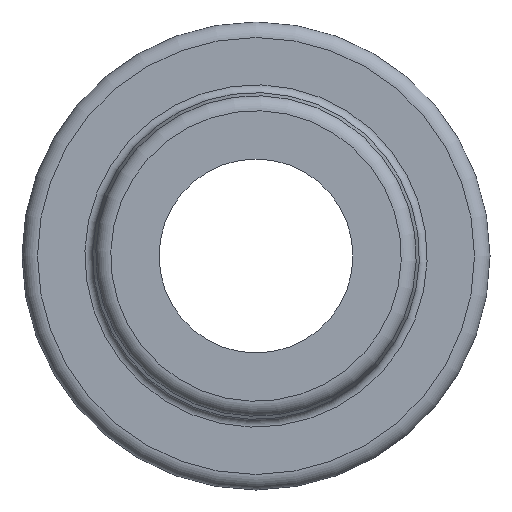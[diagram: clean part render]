
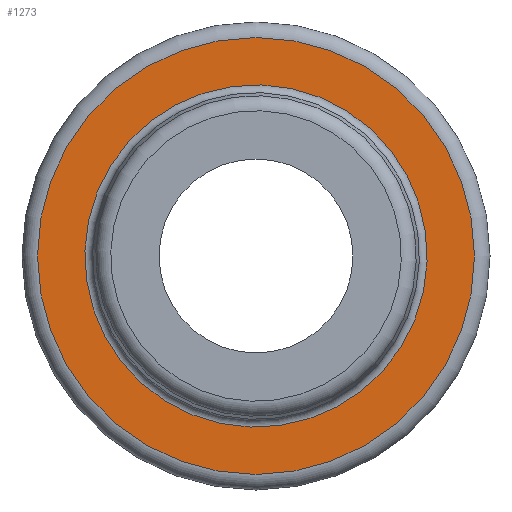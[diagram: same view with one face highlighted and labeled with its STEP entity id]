
A CAD part, left-side view. The second image highlights one B-rep face of the part: STEP entity #1273.
In plain terms, the highlighted planar face has unit normal (-1, 0, 0).
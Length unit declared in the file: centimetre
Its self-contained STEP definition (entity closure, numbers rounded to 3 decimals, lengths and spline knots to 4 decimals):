
#369=PLANE('',#1380);
#414=VERTEX_POINT('',#2668);
#416=VERTEX_POINT('',#2673);
#510=CIRCLE('',#1378,1.6815);
#512=CIRCLE('',#1381,2.1463);
#591=EDGE_CURVE('',#414,#414,#510,.T.);
#593=EDGE_CURVE('',#416,#416,#512,.T.);
#816=ORIENTED_EDGE('',*,*,#593,.F.);
#817=ORIENTED_EDGE('',*,*,#591,.F.);
#1085=EDGE_LOOP('',(#816));
#1086=EDGE_LOOP('',(#817));
#1182=FACE_BOUND('',#1085,.T.);
#1183=FACE_BOUND('',#1086,.T.);
#1273=ADVANCED_FACE('',(#1182,#1183),#369,.T.);
#1378=AXIS2_PLACEMENT_3D('',#2667,#1572,#1573);
#1380=AXIS2_PLACEMENT_3D('',#2671,#1576,$);
#1381=AXIS2_PLACEMENT_3D('',#2672,#1577,#1578);
#1572=DIRECTION('',(-1.,0.,0.));
#1573=DIRECTION('',(0.,1.68,0.058));
#1576=DIRECTION('',(-1.,0.,0.));
#1577=DIRECTION('',(1.,0.,0.));
#1578=DIRECTION('',(0.,0.,-2.146));
#2667=CARTESIAN_POINT('',(-0.2032,0.,0.));
#2668=CARTESIAN_POINT('',(-0.2032,-1.6805,-0.0578));
#2671=CARTESIAN_POINT('',(-0.2032,0.,0.));
#2672=CARTESIAN_POINT('',(-0.2032,0.,0.));
#2673=CARTESIAN_POINT('',(-0.2032,0.,2.1463));
